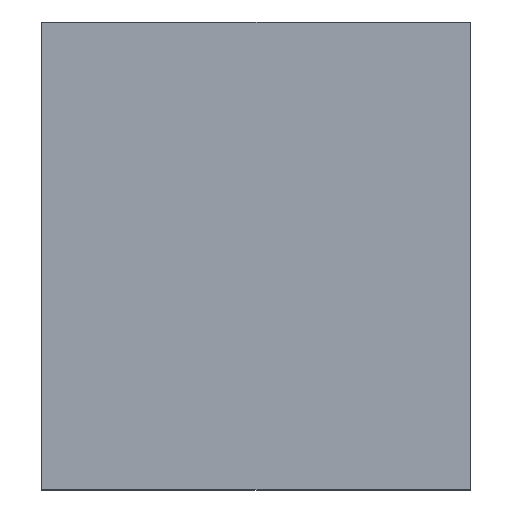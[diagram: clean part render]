
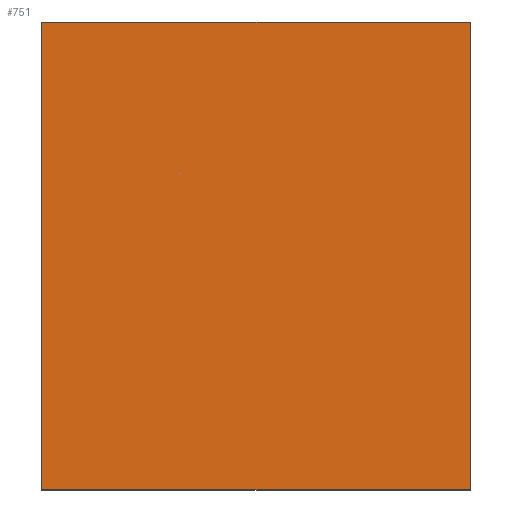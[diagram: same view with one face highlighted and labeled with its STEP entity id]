
A CAD part, left-side view. The second image highlights one B-rep face of the part: STEP entity #751.
In plain terms, the highlighted planar face has unit normal (-1, 0, 0).
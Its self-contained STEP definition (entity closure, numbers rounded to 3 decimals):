
#13 = VERTEX_POINT ( 'NONE', #495 ) ;
#25 = EDGE_CURVE ( 'NONE', #878, #570, #750, .T. ) ;
#49 = EDGE_CURVE ( 'NONE', #878, #13, #682, .T. ) ;
#56 = ORIENTED_EDGE ( 'NONE', *, *, #49, .T. ) ;
#71 = CARTESIAN_POINT ( 'NONE',  ( -18.15, 0., 8.25 ) ) ;
#87 = EDGE_CURVE ( 'NONE', #570, #447, #646, .T. ) ;
#162 = EDGE_LOOP ( 'NONE', ( #206, #207, #56, #859 ) ) ;
#206 = ORIENTED_EDGE ( 'NONE', *, *, #87, .F. ) ;
#207 = ORIENTED_EDGE ( 'NONE', *, *, #25, .F. ) ;
#246 = PLANE ( 'NONE',  #295 ) ;
#273 = FACE_OUTER_BOUND ( 'NONE', #162, .T. ) ;
#281 = EDGE_CURVE ( 'NONE', #13, #447, #515, .T. ) ;
#295 = AXIS2_PLACEMENT_3D ( 'NONE', #824, #778, #905 ) ;
#360 = DIRECTION ( 'NONE',  ( 0., 0., 1. ) ) ;
#445 = CARTESIAN_POINT ( 'NONE',  ( -18.15, -15.1, 8.25 ) ) ;
#447 = VERTEX_POINT ( 'NONE', #71 ) ;
#459 = CARTESIAN_POINT ( 'NONE',  ( -18.15, -15.1, -8.25 ) ) ;
#461 = CARTESIAN_POINT ( 'NONE',  ( -18.15, -15.1, -8.25 ) ) ;
#495 = CARTESIAN_POINT ( 'NONE',  ( -18.15, -15.1, 8.25 ) ) ;
#508 = VECTOR ( 'NONE', #709, 1000. ) ;
#515 = LINE ( 'NONE', #445, #508 ) ;
#570 = VERTEX_POINT ( 'NONE', #874 ) ;
#646 = LINE ( 'NONE', #654, #670 ) ;
#654 = CARTESIAN_POINT ( 'NONE',  ( -18.15, 0., -8.25 ) ) ;
#670 = VECTOR ( 'NONE', #360, 1000. ) ;
#674 = VECTOR ( 'NONE', #705, 1000. ) ;
#679 = CARTESIAN_POINT ( 'NONE',  ( -18.15, -15.1, -8.25 ) ) ;
#682 = LINE ( 'NONE', #679, #674 ) ;
#705 = DIRECTION ( 'NONE',  ( 0., 0., 1. ) ) ;
#709 = DIRECTION ( 'NONE',  ( 0., 1., 0. ) ) ;
#736 = VECTOR ( 'NONE', #753, 1000. ) ;
#750 = LINE ( 'NONE', #461, #736 ) ;
#751 = ADVANCED_FACE ( 'NONE', ( #273 ), #246, .T. ) ;
#753 = DIRECTION ( 'NONE',  ( 0., 1., 0. ) ) ;
#778 = DIRECTION ( 'NONE',  ( -1., 0., 0. ) ) ;
#824 = CARTESIAN_POINT ( 'NONE',  ( -18.15, -15.1, -8.25 ) ) ;
#859 = ORIENTED_EDGE ( 'NONE', *, *, #281, .T. ) ;
#874 = CARTESIAN_POINT ( 'NONE',  ( -18.15, 0., -8.25 ) ) ;
#878 = VERTEX_POINT ( 'NONE', #459 ) ;
#905 = DIRECTION ( 'NONE',  ( 0., 0., 1. ) ) ;
